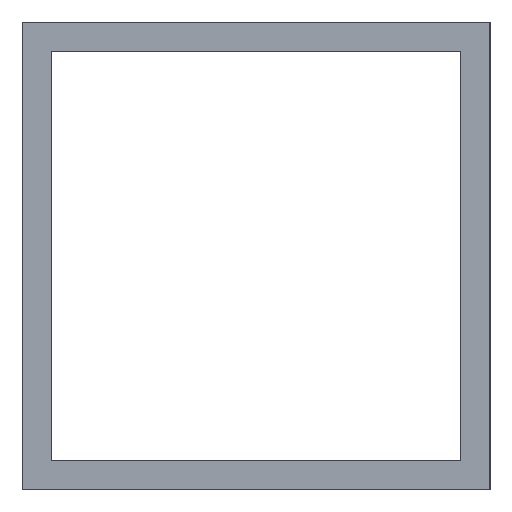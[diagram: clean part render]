
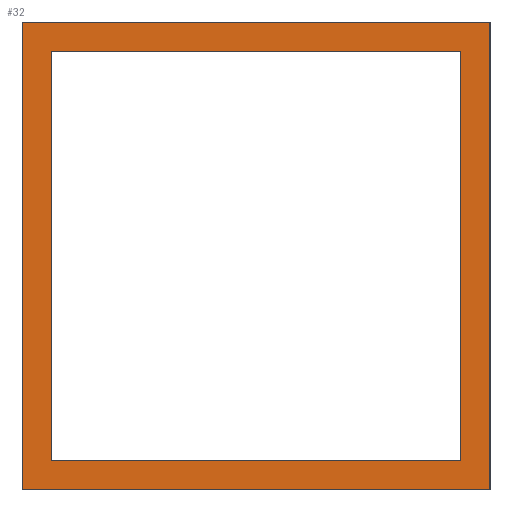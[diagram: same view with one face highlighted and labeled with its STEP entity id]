
A CAD part, left-side view. The second image highlights one B-rep face of the part: STEP entity #32.
In plain terms, the highlighted planar face has unit normal (-1, 0, 0).
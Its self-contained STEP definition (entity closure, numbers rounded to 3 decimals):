
#32=ADVANCED_FACE('',(#68,#50),#194,.T.);
#50=FACE_OUTER_BOUND('',#76,.F.);
#68=FACE_BOUND('',#75,.F.);
#75=EDGE_LOOP('',(#105,#106,#107,#108));
#76=EDGE_LOOP('',(#109,#110,#111,#112));
#105=ORIENTED_EDGE('',*,*,#241,.T.);
#106=ORIENTED_EDGE('',*,*,#243,.T.);
#107=ORIENTED_EDGE('',*,*,#245,.T.);
#108=ORIENTED_EDGE('',*,*,#239,.T.);
#109=ORIENTED_EDGE('',*,*,#251,.F.);
#110=ORIENTED_EDGE('',*,*,#252,.F.);
#111=ORIENTED_EDGE('',*,*,#253,.F.);
#112=ORIENTED_EDGE('',*,*,#254,.F.);
#194=PLANE('',#394);
#239=EDGE_CURVE('',#366,#365,#279,.T.);
#241=EDGE_CURVE('',#365,#362,#281,.T.);
#243=EDGE_CURVE('',#362,#360,#283,.T.);
#245=EDGE_CURVE('',#360,#366,#285,.T.);
#251=EDGE_CURVE('',#354,#353,#291,.T.);
#252=EDGE_CURVE('',#352,#354,#292,.T.);
#253=EDGE_CURVE('',#351,#352,#293,.T.);
#254=EDGE_CURVE('',#353,#351,#294,.T.);
#279=LINE('',#557,#319);
#281=LINE('',#559,#321);
#283=LINE('',#561,#323);
#285=LINE('',#563,#325);
#291=LINE('',#569,#331);
#292=LINE('',#570,#332);
#293=LINE('',#571,#333);
#294=LINE('',#572,#334);
#319=VECTOR('',#438,22.225);
#321=VECTOR('',#440,22.225);
#323=VECTOR('',#442,22.225);
#325=VECTOR('',#444,22.225);
#331=VECTOR('',#450,25.4);
#332=VECTOR('',#451,25.4);
#333=VECTOR('',#452,25.4);
#334=VECTOR('',#453,25.4);
#351=VERTEX_POINT('',#509);
#352=VERTEX_POINT('',#510);
#353=VERTEX_POINT('',#511);
#354=VERTEX_POINT('',#512);
#360=VERTEX_POINT('',#518);
#362=VERTEX_POINT('',#520);
#365=VERTEX_POINT('',#523);
#366=VERTEX_POINT('',#524);
#394=AXIS2_PLACEMENT_3D('',#590,#472,#473);
#438=DIRECTION('',(0.,0.,1.));
#440=DIRECTION('',(0.,1.,0.));
#442=DIRECTION('',(0.,0.,-1.));
#444=DIRECTION('',(0.,-1.,0.));
#450=DIRECTION('',(0.,-1.,0.));
#451=DIRECTION('',(0.,0.,-1.));
#452=DIRECTION('',(0.,1.,0.));
#453=DIRECTION('',(0.,0.,1.));
#472=DIRECTION('',(-1.,0.,0.));
#473=DIRECTION('',(0.,0.,-1.));
#509=CARTESIAN_POINT('',(1121.786,-2819.741,4552.545));
#510=CARTESIAN_POINT('',(1121.786,-2794.341,4552.545));
#511=CARTESIAN_POINT('',(1121.786,-2819.741,4527.145));
#512=CARTESIAN_POINT('',(1121.786,-2794.341,4527.145));
#518=CARTESIAN_POINT('',(1121.786,-2795.928,4528.733));
#520=CARTESIAN_POINT('',(1121.786,-2795.928,4550.958));
#523=CARTESIAN_POINT('',(1121.786,-2818.153,4550.958));
#524=CARTESIAN_POINT('',(1121.786,-2818.153,4528.733));
#557=CARTESIAN_POINT('',(1121.786,-2818.153,4528.733));
#559=CARTESIAN_POINT('',(1121.786,-2818.153,4550.958));
#561=CARTESIAN_POINT('',(1121.786,-2795.928,4550.958));
#563=CARTESIAN_POINT('',(1121.786,-2795.928,4528.733));
#569=CARTESIAN_POINT('',(1121.786,-2794.341,4527.145));
#570=CARTESIAN_POINT('',(1121.786,-2794.341,4552.545));
#571=CARTESIAN_POINT('',(1121.786,-2819.741,4552.545));
#572=CARTESIAN_POINT('',(1121.786,-2819.741,4527.145));
#590=CARTESIAN_POINT('',(1121.786,-2794.087,4552.799));
